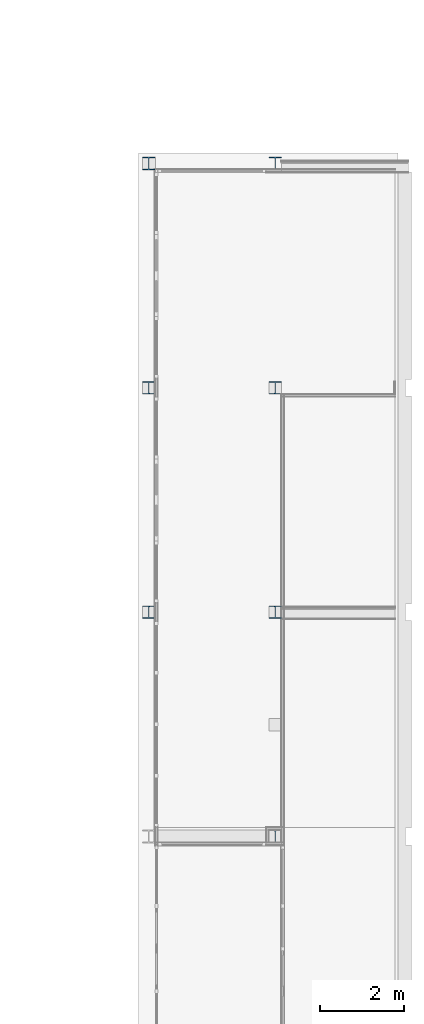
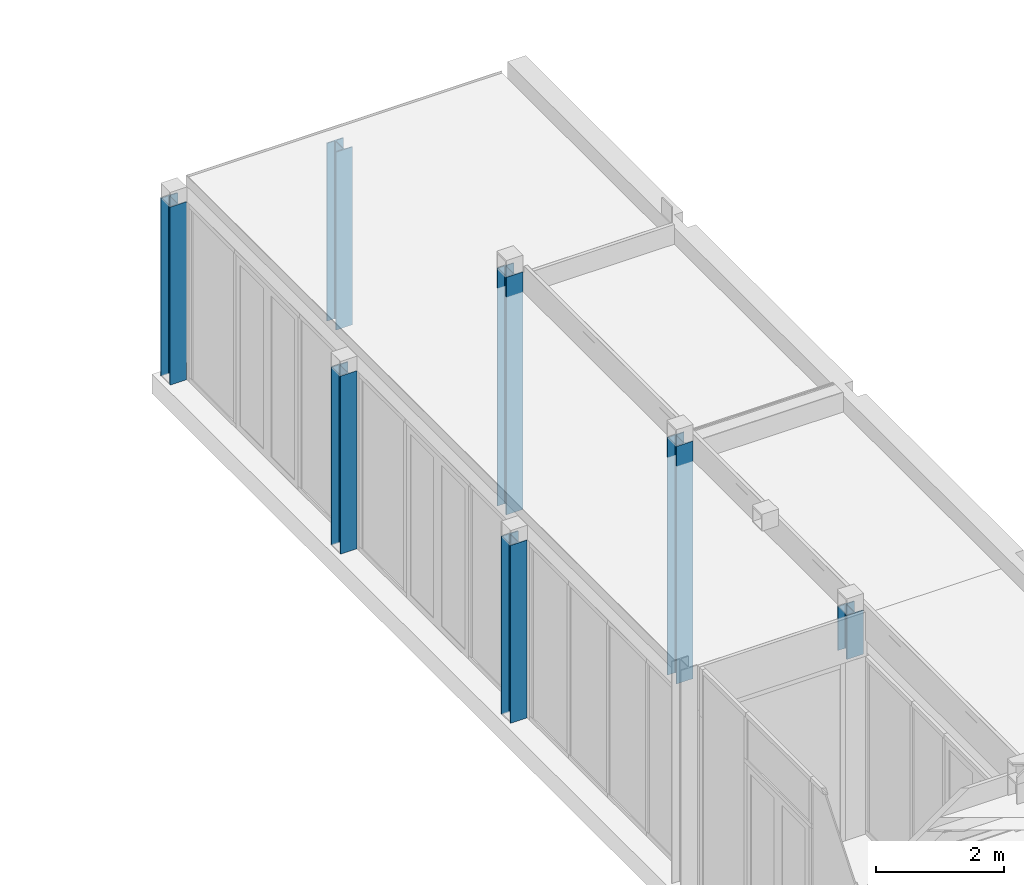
# One storey, part 18 of 99: 7 columns.
"""IFC2X3 building model written with IfcOpenShell, lengths in millimetres."""

from ifc_helpers import new_model, entity, si_unit, converted_unit, derived_unit, money_unit, direction, frame, origin_with_axes, place, context, subcontext, project, spatial, faceted_brep, material, type_object, element, save


model = new_model("IFC2X3")

# Units and contexts
model_context = context("Model", 3, precision=0.01, world=origin_with_axes(), true_north=direction((0.0, 1.0)))
body_context = subcontext(model_context, "Body", "Model", "MODEL_VIEW")
ifc_project = project(units=[si_unit("LENGTHUNIT", "METRE", prefix="MILLI"), si_unit("AREAUNIT", "SQUARE_METRE"), si_unit("VOLUMEUNIT", "CUBIC_METRE"), converted_unit("PLANEANGLEUNIT", "DEGREE", entity("IfcPlaneAngleMeasure", 0.0174532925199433), si_unit("PLANEANGLEUNIT", "RADIAN"), dimensions=[0, 0, 0, 0, 0, 0, 0]), money_unit("EUR"), converted_unit("TIMEUNIT", "Year", entity("IfcTimeMeasure", 31557600.0), si_unit("TIMEUNIT", "SECOND"), dimensions=[0, 0, 1, 0, 0, 0, 0]), si_unit("MASSUNIT", "GRAM", prefix="KILO"), si_unit("THERMODYNAMICTEMPERATUREUNIT", "DEGREE_CELSIUS"), si_unit("LUMINOUSINTENSITYUNIT", "LUMEN"), si_unit("ENERGYUNIT", "JOULE", prefix="MEGA"), derived_unit("THERMALCONDUCTANCEUNIT", [(si_unit("POWERUNIT", "WATT"), 1), (si_unit("LENGTHUNIT", "METRE"), -1), (si_unit("THERMODYNAMICTEMPERATUREUNIT", "KELVIN"), -1)]), derived_unit("SPECIFICHEATCAPACITYUNIT", [(si_unit("ENERGYUNIT", "JOULE"), 1), (si_unit("MASSUNIT", "GRAM", prefix="KILO"), -1), (si_unit("THERMODYNAMICTEMPERATUREUNIT", "KELVIN"), -1)]), derived_unit("MASSDENSITYUNIT", [(si_unit("MASSUNIT", "GRAM", prefix="KILO"), 1), (si_unit("VOLUMEUNIT", "CUBIC_METRE"), -1)])], contexts=[model_context])

# Site, building, storey
site_placement = place(None, origin_with_axes())
site = spatial("IfcSite", under=ifc_project, at=site_placement, Name="Site", CompositionType="ELEMENT")
building_placement = place(site_placement, origin_with_axes())
building = spatial("IfcBuilding", under=site, at=building_placement, Name="Naam gebouw", CompositionType="ELEMENT")
storey_placement = place(building_placement, frame((0.0, 0.0, 7650.0), z_axis=(0.0, 0.0, 1.0), x_axis=(1.0, 0.0, 0.0)))
storey = spatial("IfcBuildingStorey", under=building, at=storey_placement, Name="2e verdieping N", CompositionType="ELEMENT", Elevation=7650.0)

# Columns
ifc_material = material(Name="staal geanodiseerd RAL 7024")
column_type_1 = type_object("IfcColumnType", Name="NLRS_28_SCO_staal - kolom - HEB:HE300B", PredefinedType="COLUMN")
column_1_placement = place(storey_placement, frame((14291.00000005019, 49275.9124263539, -3500.0), z_axis=(0.0, 0.0, 1.0), x_axis=(1.0, 0.0, 0.0)))
element("IfcColumn", 1, at=column_1_placement, inside=storey, type_object=column_type_1, material=ifc_material, Name="NLRS_28_SCO_staal - kolom - HEB:HE300B", ObjectType="COLUMN", context=body_context, shape_type="Brep", body=[
    faceted_brep([(-150.0000000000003, 149.9999999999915, 3400.000000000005), (-150.0000000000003, 149.9999999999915, 0.0), (-150.0000000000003, 130.9999999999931, 0.0), (-150.0000000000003, 130.9999999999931, 3400.000000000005), (150.0000000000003, 149.9999999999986, 3400.000000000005), (150.0000000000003, 149.9999999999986, 0.0), (150.0000000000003, 131.0000000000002, 0.0), (32.49999999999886, 131.0000000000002, 0.0), (19.00000000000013, 127.3826859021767, 0.0), (9.117314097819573, 117.4999999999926, 0.0), (5.499999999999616, 103.9999999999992, 0.0), (5.499999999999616, -103.9999999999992, 0.0), (9.117314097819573, -117.5000000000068, 0.0), (19.00000000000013, -127.3826859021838, 0.0), (32.50000000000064, -131.0000000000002, 0.0), (150.0000000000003, -131.0000000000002, 0.0), (150.0000000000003, -149.9999999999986, 0.0), (-150.0000000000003, -150.0000000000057, 0.0), (-150.0000000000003, -131.0000000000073, 0.0), (-32.49999999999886, -131.0000000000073, 0.0), (-19.00000000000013, -127.3826859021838, 0.0), (-9.117314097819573, -117.4999999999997, 0.0), (-5.500000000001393, -104.0000000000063, 0.0), (-5.500000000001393, 103.9999999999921, 0.0), (-9.117314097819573, 117.4999999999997, 0.0), (-19.00000000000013, 127.3826859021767, 0.0), (-32.50000000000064, 130.9999999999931, 0.0), (-32.50000000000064, 130.9999999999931, 3400.000000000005), (-19.00000000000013, 127.3826859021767, 3400.000000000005), (-9.117314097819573, 117.4999999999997, 3400.000000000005), (-5.500000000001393, 103.9999999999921, 3400.000000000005), (-5.500000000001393, -104.0000000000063, 3400.000000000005), (-9.117314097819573, -117.4999999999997, 3400.000000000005), (-19.00000000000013, -127.3826859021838, 3400.000000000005), (-32.49999999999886, -131.0000000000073, 3400.000000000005), (-150.0000000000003, -131.0000000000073, 3400.000000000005), (-150.0000000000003, -150.0000000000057, 3400.000000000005), (150.0000000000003, -149.9999999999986, 3400.000000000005), (150.0000000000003, -131.0000000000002, 3400.000000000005), (32.50000000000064, -131.0000000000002, 3400.000000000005), (19.00000000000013, -127.3826859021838, 3400.000000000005), (9.117314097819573, -117.5000000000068, 3400.000000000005), (5.499999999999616, -103.9999999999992, 3400.000000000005), (5.499999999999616, 103.9999999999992, 3400.000000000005), (9.117314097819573, 117.4999999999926, 3400.000000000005), (19.00000000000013, 127.3826859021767, 3400.000000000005), (32.49999999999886, 131.0000000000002, 3400.000000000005), (150.0000000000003, 131.0000000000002, 3400.000000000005)], [[[0, 1, 2, 3]], [[4, 5, 1, 0]], [[2, 1, 5, 6, 7, 8, 9, 10, 11, 12, 13, 14, 15, 16, 17, 18, 19, 20, 21, 22, 23, 24, 25, 26]], [[3, 2, 26, 27]], [[4, 0, 3, 27, 28, 29, 30, 31, 32, 33, 34, 35, 36, 37, 38, 39, 40, 41, 42, 43, 44, 45, 46, 47]], [[47, 6, 5, 4]], [[46, 7, 6, 47]], [[45, 8, 7, 46]], [[44, 9, 8, 45]], [[43, 10, 9, 44]], [[42, 11, 10, 43]], [[41, 12, 11, 42]], [[40, 13, 12, 41]], [[39, 14, 13, 40]], [[38, 15, 14, 39]], [[37, 16, 15, 38]], [[36, 17, 16, 37]], [[35, 18, 17, 36]], [[34, 19, 18, 35]], [[33, 20, 19, 34]], [[32, 21, 20, 33]], [[31, 22, 21, 32]], [[30, 23, 22, 31]], [[29, 24, 23, 30]], [[28, 25, 24, 29]], [[27, 26, 25, 28]]]),
])
column_2_placement = place(storey_placement, frame((14291.00000005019, 38615.9124263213, -3500.0), z_axis=(0.0, 0.0, 1.0), x_axis=(1.0, 0.0, 0.0)))
element("IfcColumn", 2, at=column_2_placement, inside=storey, type_object=column_type_1, material=ifc_material, Name="NLRS_28_SCO_staal - kolom - HEB:HE300B", ObjectType="COLUMN", context=body_context, shape_type="Brep", body=[
    faceted_brep([(-150.0000000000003, 149.9999999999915, 3400.000000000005), (-150.0000000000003, 149.9999999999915, 0.0), (-150.0000000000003, 130.9999999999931, 0.0), (-150.0000000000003, 130.9999999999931, 3400.000000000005), (150.0000000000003, 149.9999999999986, 3400.000000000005), (150.0000000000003, 149.9999999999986, 0.0), (150.0000000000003, 131.0000000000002, 0.0), (32.49999999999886, 131.0000000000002, 0.0), (19.00000000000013, 127.3826859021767, 0.0), (9.117314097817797, 117.4999999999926, 0.0), (5.499999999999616, 103.9999999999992, 0.0), (5.499999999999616, -103.9999999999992, 0.0), (9.117314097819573, -117.5000000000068, 0.0), (18.99999999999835, -127.3826859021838, 0.0), (32.49999999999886, -131.0000000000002, 0.0), (149.9999999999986, -131.0000000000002, 0.0), (150.0000000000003, -149.9999999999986, 0.0), (-150.0000000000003, -150.0000000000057, 0.0), (-150.0000000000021, -131.0000000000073, 0.0), (-32.50000000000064, -131.0000000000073, 0.0), (-19.0000000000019, -127.3826859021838, 0.0), (-9.117314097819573, -117.4999999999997, 0.0), (-5.500000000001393, -104.0000000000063, 0.0), (-5.500000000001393, 103.9999999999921, 0.0), (-9.11731409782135, 117.4999999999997, 0.0), (-19.00000000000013, 127.3826859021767, 0.0), (-32.50000000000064, 130.9999999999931, 0.0), (-32.50000000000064, 130.9999999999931, 3400.000000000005), (-19.00000000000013, 127.3826859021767, 3400.000000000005), (-9.11731409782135, 117.4999999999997, 3400.000000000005), (-5.500000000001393, 103.9999999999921, 3400.000000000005), (-5.500000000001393, -104.0000000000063, 3400.000000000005), (-9.117314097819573, -117.4999999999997, 3400.000000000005), (-19.0000000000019, -127.3826859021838, 3400.000000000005), (-32.50000000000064, -131.0000000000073, 3400.000000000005), (-150.0000000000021, -131.0000000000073, 3400.000000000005), (-150.0000000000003, -150.0000000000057, 3400.000000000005), (150.0000000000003, -149.9999999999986, 3400.000000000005), (149.9999999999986, -131.0000000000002, 3400.000000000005), (32.49999999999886, -131.0000000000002, 3400.000000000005), (18.99999999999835, -127.3826859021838, 3400.000000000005), (9.117314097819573, -117.5000000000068, 3400.000000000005), (5.499999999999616, -103.9999999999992, 3400.000000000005), (5.499999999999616, 103.9999999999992, 3400.000000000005), (9.117314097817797, 117.4999999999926, 3400.000000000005), (19.00000000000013, 127.3826859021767, 3400.000000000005), (32.49999999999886, 131.0000000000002, 3400.000000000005), (150.0000000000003, 131.0000000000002, 3400.000000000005)], [[[0, 1, 2, 3]], [[4, 5, 1, 0]], [[2, 1, 5, 6, 7, 8, 9, 10, 11, 12, 13, 14, 15, 16, 17, 18, 19, 20, 21, 22, 23, 24, 25, 26]], [[3, 2, 26, 27]], [[4, 0, 3, 27, 28, 29, 30, 31, 32, 33, 34, 35, 36, 37, 38, 39, 40, 41, 42, 43, 44, 45, 46, 47]], [[47, 6, 5, 4]], [[46, 7, 6, 47]], [[45, 8, 7, 46]], [[44, 9, 8, 45]], [[43, 10, 9, 44]], [[42, 11, 10, 43]], [[41, 12, 11, 42]], [[40, 13, 12, 41]], [[39, 14, 13, 40]], [[38, 15, 14, 39]], [[37, 16, 15, 38]], [[36, 17, 16, 37]], [[35, 18, 17, 36]], [[34, 19, 18, 35]], [[33, 20, 19, 34]], [[32, 21, 20, 33]], [[31, 22, 21, 32]], [[30, 23, 22, 31]], [[29, 24, 23, 30]], [[28, 25, 24, 29]], [[27, 26, 25, 28]]]),
])
column_3_placement = place(storey_placement, frame((14291.00000005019, 43945.9124263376, -3500.0), z_axis=(0.0, 0.0, 1.0), x_axis=(1.0, 0.0, 0.0)))
element("IfcColumn", 3, at=column_3_placement, inside=storey, type_object=column_type_1, material=ifc_material, Name="NLRS_28_SCO_staal - kolom - HEB:HE300B", ObjectType="COLUMN", context=body_context, shape_type="Brep", body=[
    faceted_brep([(-150.0000000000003, 149.9999999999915, 3400.000000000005), (-150.0000000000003, 149.9999999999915, 0.0), (-150.0000000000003, 130.9999999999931, 0.0), (-150.0000000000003, 130.9999999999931, 3400.000000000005), (150.0000000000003, 149.9999999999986, 3400.000000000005), (150.0000000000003, 149.9999999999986, 0.0), (150.0000000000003, 131.0000000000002, 0.0), (32.49999999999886, 131.0000000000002, 0.0), (19.00000000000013, 127.3826859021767, 0.0), (9.117314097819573, 117.4999999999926, 0.0), (5.499999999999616, 103.9999999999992, 0.0), (5.499999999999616, -103.9999999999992, 0.0), (9.117314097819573, -117.5000000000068, 0.0), (18.99999999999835, -127.3826859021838, 0.0), (32.49999999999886, -131.0000000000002, 0.0), (149.9999999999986, -131.0000000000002, 0.0), (150.0000000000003, -149.9999999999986, 0.0), (-150.0000000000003, -150.0000000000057, 0.0), (-150.0000000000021, -131.0000000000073, 0.0), (-32.50000000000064, -131.0000000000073, 0.0), (-19.0000000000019, -127.3826859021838, 0.0), (-9.117314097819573, -117.4999999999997, 0.0), (-5.500000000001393, -104.0000000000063, 0.0), (-5.500000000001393, 103.9999999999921, 0.0), (-9.117314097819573, 117.4999999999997, 0.0), (-19.00000000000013, 127.3826859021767, 0.0), (-32.50000000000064, 130.9999999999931, 0.0), (-32.50000000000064, 130.9999999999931, 3400.000000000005), (-19.00000000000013, 127.3826859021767, 3400.000000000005), (-9.117314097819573, 117.4999999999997, 3400.000000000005), (-5.500000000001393, 103.9999999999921, 3400.000000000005), (-5.500000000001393, -104.0000000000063, 3400.000000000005), (-9.117314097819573, -117.4999999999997, 3400.000000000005), (-19.0000000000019, -127.3826859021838, 3400.000000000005), (-32.50000000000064, -131.0000000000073, 3400.000000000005), (-150.0000000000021, -131.0000000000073, 3400.000000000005), (-150.0000000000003, -150.0000000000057, 3400.000000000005), (150.0000000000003, -149.9999999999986, 3400.000000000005), (149.9999999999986, -131.0000000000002, 3400.000000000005), (32.49999999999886, -131.0000000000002, 3400.000000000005), (18.99999999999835, -127.3826859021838, 3400.000000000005), (9.117314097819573, -117.5000000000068, 3400.000000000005), (5.499999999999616, -103.9999999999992, 3400.000000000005), (5.499999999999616, 103.9999999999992, 3400.000000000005), (9.117314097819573, 117.4999999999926, 3400.000000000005), (19.00000000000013, 127.3826859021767, 3400.000000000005), (32.49999999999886, 131.0000000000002, 3400.000000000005), (150.0000000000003, 131.0000000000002, 3400.000000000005)], [[[0, 1, 2, 3]], [[4, 5, 1, 0]], [[2, 1, 5, 6, 7, 8, 9, 10, 11, 12, 13, 14, 15, 16, 17, 18, 19, 20, 21, 22, 23, 24, 25, 26]], [[3, 2, 26, 27]], [[4, 0, 3, 27, 28, 29, 30, 31, 32, 33, 34, 35, 36, 37, 38, 39, 40, 41, 42, 43, 44, 45, 46, 47]], [[47, 6, 5, 4]], [[46, 7, 6, 47]], [[45, 8, 7, 46]], [[44, 9, 8, 45]], [[43, 10, 9, 44]], [[42, 11, 10, 43]], [[41, 12, 11, 42]], [[40, 13, 12, 41]], [[39, 14, 13, 40]], [[38, 15, 14, 39]], [[37, 16, 15, 38]], [[36, 17, 16, 37]], [[35, 18, 17, 36]], [[34, 19, 18, 35]], [[33, 20, 19, 34]], [[32, 21, 20, 33]], [[31, 22, 21, 32]], [[30, 23, 22, 31]], [[29, 24, 23, 30]], [[28, 25, 24, 29]], [[27, 26, 25, 28]]]),
])
column_type_2 = type_object("IfcColumnType", Name="NLRS_28_SCO_staal - kolom - HEB:HE300B", PredefinedType="COLUMN")
column_4_placement = place(storey_placement, frame((17291.00000005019, 33285.912426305, -99.99999999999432), z_axis=(0.0, 0.0, 1.0), x_axis=(0.0, -1.0, 0.0)))
element("IfcColumn", 4, at=column_4_placement, inside=storey, type_object=column_type_2, material=ifc_material, Name="NLRS_28_SCO_staal - kolom - HEB:HE300B", ObjectType="COLUMN", context=body_context, shape_type="Brep", body=[
    faceted_brep([(-149.9999999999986, -150.0000000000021, 839.9999999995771), (-149.9999999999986, -150.0000000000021, 0.0), (-131.0000000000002, -149.9999999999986, 0.0), (-131.0000000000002, -149.9999999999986, 839.9999999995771), (-149.9999999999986, 149.9999999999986, 839.9999999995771), (-149.9999999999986, 149.9999999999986, 0.0), (-131.0000000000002, 149.9999999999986, 0.0), (-131.0000000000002, 32.49999999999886, 0.0), (-127.3826859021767, 18.99999999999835, 0.0), (-117.4999999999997, 9.11731409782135, 0.0), (-103.9999999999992, 5.500000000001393, 0.0), (103.9999999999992, 5.49999999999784, 0.0), (117.4999999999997, 9.11731409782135, 0.0), (127.3826859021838, 18.99999999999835, 0.0), (131.0000000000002, 32.49999999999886, 0.0), (131.0000000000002, 149.9999999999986, 0.0), (149.9999999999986, 149.9999999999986, 0.0), (149.9999999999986, -150.0000000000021, 0.0), (131.0000000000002, -149.9999999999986, 0.0), (131.0000000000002, -32.49999999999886, 0.0), (127.3826859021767, -19.0000000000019, 0.0), (117.4999999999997, -9.11731409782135, 0.0), (103.9999999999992, -5.500000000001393, 0.0), (-103.9999999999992, -5.49999999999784, 0.0), (-117.4999999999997, -9.11731409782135, 0.0), (-127.3826859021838, -19.0000000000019, 0.0), (-131.0000000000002, -32.49999999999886, 0.0), (-131.0000000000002, -32.49999999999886, 839.9999999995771), (-127.3826859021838, -19.0000000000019, 839.9999999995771), (-117.4999999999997, -9.11731409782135, 839.9999999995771), (-103.9999999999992, -5.49999999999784, 839.9999999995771), (103.9999999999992, -5.500000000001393, 839.9999999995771), (117.4999999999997, -9.11731409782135, 839.9999999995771), (127.3826859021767, -19.0000000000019, 839.9999999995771), (131.0000000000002, -32.49999999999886, 839.9999999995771), (131.0000000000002, -149.9999999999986, 839.9999999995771), (149.9999999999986, -150.0000000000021, 839.9999999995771), (149.9999999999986, 149.9999999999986, 839.9999999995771), (131.0000000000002, 149.9999999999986, 839.9999999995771), (131.0000000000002, 32.49999999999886, 839.9999999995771), (127.3826859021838, 18.99999999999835, 839.9999999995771), (117.4999999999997, 9.11731409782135, 839.9999999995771), (103.9999999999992, 5.49999999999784, 839.9999999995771), (-103.9999999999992, 5.500000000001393, 839.9999999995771), (-117.4999999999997, 9.11731409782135, 839.9999999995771), (-127.3826859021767, 18.99999999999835, 839.9999999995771), (-131.0000000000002, 32.49999999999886, 839.9999999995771), (-131.0000000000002, 149.9999999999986, 839.9999999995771)], [[[0, 1, 2, 3]], [[4, 5, 1, 0]], [[2, 1, 5, 6, 7, 8, 9, 10, 11, 12, 13, 14, 15, 16, 17, 18, 19, 20, 21, 22, 23, 24, 25, 26]], [[3, 2, 26, 27]], [[4, 0, 3, 27, 28, 29, 30, 31, 32, 33, 34, 35, 36, 37, 38, 39, 40, 41, 42, 43, 44, 45, 46, 47]], [[47, 6, 5, 4]], [[46, 7, 6, 47]], [[45, 8, 7, 46]], [[44, 9, 8, 45]], [[43, 10, 9, 44]], [[42, 11, 10, 43]], [[41, 12, 11, 42]], [[40, 13, 12, 41]], [[39, 14, 13, 40]], [[38, 15, 14, 39]], [[37, 16, 15, 38]], [[36, 17, 16, 37]], [[35, 18, 17, 36]], [[34, 19, 18, 35]], [[33, 20, 19, 34]], [[32, 21, 20, 33]], [[31, 22, 21, 32]], [[30, 23, 22, 31]], [[29, 24, 23, 30]], [[28, 25, 24, 29]], [[27, 26, 25, 28]]]),
])
column_type_3 = type_object("IfcColumnType", Name="NLRS_28_SCO_staal - kolom - HEB:HE300B", PredefinedType="COLUMN")
column_5_placement = place(storey_placement, frame((17291.00000002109, 38615.9124263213, -3800.000000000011), z_axis=(0.0, 0.0, 1.0), x_axis=(0.0, -1.0, 0.0)))
element("IfcColumn", 5, at=column_5_placement, inside=storey, type_object=column_type_3, material=ifc_material, Name="NLRS_28_SCO_staal - kolom - HEB:HE300B", ObjectType="COLUMN", context=body_context, shape_type="Brep", body=[
    faceted_brep([(-149.9999999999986, -150.0000000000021, 4539.999999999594), (-149.9999999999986, -150.0000000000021, 0.0), (-131.0000000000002, -149.9999999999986, 0.0), (-131.0000000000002, -149.9999999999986, 4539.999999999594), (-149.9999999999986, 149.9999999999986, 4539.999999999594), (-149.9999999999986, 149.9999999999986, 0.0), (-131.0000000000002, 149.9999999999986, 0.0), (-131.0000000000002, 32.49999999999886, 0.0), (-127.3826859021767, 18.99999999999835, 0.0), (-117.4999999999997, 9.11731409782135, 0.0), (-103.9999999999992, 5.500000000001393, 0.0), (103.9999999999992, 5.49999999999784, 0.0), (117.4999999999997, 9.11731409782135, 0.0), (127.3826859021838, 18.99999999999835, 0.0), (131.0000000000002, 32.49999999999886, 0.0), (131.0000000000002, 149.9999999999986, 0.0), (149.9999999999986, 149.9999999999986, 0.0), (149.9999999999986, -150.0000000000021, 0.0), (131.0000000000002, -149.9999999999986, 0.0), (131.0000000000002, -32.49999999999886, 0.0), (127.3826859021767, -19.0000000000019, 0.0), (117.4999999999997, -9.11731409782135, 0.0), (103.9999999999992, -5.500000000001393, 0.0), (-103.9999999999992, -5.49999999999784, 0.0), (-117.4999999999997, -9.11731409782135, 0.0), (-127.3826859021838, -19.0000000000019, 0.0), (-131.0000000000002, -32.49999999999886, 0.0), (-131.0000000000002, -32.49999999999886, 4539.999999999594), (-127.3826859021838, -19.0000000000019, 4539.999999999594), (-117.4999999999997, -9.11731409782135, 4539.999999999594), (-103.9999999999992, -5.49999999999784, 4539.999999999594), (103.9999999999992, -5.500000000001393, 4539.999999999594), (117.4999999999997, -9.11731409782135, 4539.999999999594), (127.3826859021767, -19.0000000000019, 4539.999999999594), (131.0000000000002, -32.49999999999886, 4539.999999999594), (131.0000000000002, -149.9999999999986, 4539.999999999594), (149.9999999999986, -150.0000000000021, 4539.999999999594), (149.9999999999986, 149.9999999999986, 4539.999999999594), (131.0000000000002, 149.9999999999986, 4539.999999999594), (131.0000000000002, 32.49999999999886, 4539.999999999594), (127.3826859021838, 18.99999999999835, 4539.999999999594), (117.4999999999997, 9.11731409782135, 4539.999999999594), (103.9999999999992, 5.49999999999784, 4539.999999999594), (-103.9999999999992, 5.500000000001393, 4539.999999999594), (-117.4999999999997, 9.11731409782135, 4539.999999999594), (-127.3826859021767, 18.99999999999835, 4539.999999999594), (-131.0000000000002, 32.49999999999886, 4539.999999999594), (-131.0000000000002, 149.9999999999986, 4539.999999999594)], [[[0, 1, 2, 3]], [[4, 5, 1, 0]], [[2, 1, 5, 6, 7, 8, 9, 10, 11, 12, 13, 14, 15, 16, 17, 18, 19, 20, 21, 22, 23, 24, 25, 26]], [[3, 2, 26, 27]], [[4, 0, 3, 27, 28, 29, 30, 31, 32, 33, 34, 35, 36, 37, 38, 39, 40, 41, 42, 43, 44, 45, 46, 47]], [[47, 6, 5, 4]], [[46, 7, 6, 47]], [[45, 8, 7, 46]], [[44, 9, 8, 45]], [[43, 10, 9, 44]], [[42, 11, 10, 43]], [[41, 12, 11, 42]], [[40, 13, 12, 41]], [[39, 14, 13, 40]], [[38, 15, 14, 39]], [[37, 16, 15, 38]], [[36, 17, 16, 37]], [[35, 18, 17, 36]], [[34, 19, 18, 35]], [[33, 20, 19, 34]], [[32, 21, 20, 33]], [[31, 22, 21, 32]], [[30, 23, 22, 31]], [[29, 24, 23, 30]], [[28, 25, 24, 29]], [[27, 26, 25, 28]]]),
])
column_6_placement = place(storey_placement, frame((17291.00000002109, 43945.9124263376, -3800.000000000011), z_axis=(0.0, 0.0, 1.0), x_axis=(0.0, -1.0, 0.0)))
element("IfcColumn", 6, at=column_6_placement, inside=storey, type_object=column_type_3, material=ifc_material, Name="NLRS_28_SCO_staal - kolom - HEB:HE300B", ObjectType="COLUMN", context=body_context, shape_type="Brep", body=[
    faceted_brep([(-149.9999999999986, -150.0000000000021, 4539.999999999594), (-149.9999999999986, -150.0000000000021, 0.0), (-131.0000000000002, -149.9999999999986, 0.0), (-131.0000000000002, -149.9999999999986, 4539.999999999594), (-149.9999999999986, 149.9999999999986, 4539.999999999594), (-149.9999999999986, 149.9999999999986, 0.0), (-131.0000000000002, 149.9999999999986, 0.0), (-131.0000000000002, 32.49999999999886, 0.0), (-127.3826859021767, 18.99999999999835, 0.0), (-117.4999999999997, 9.11731409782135, 0.0), (-103.9999999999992, 5.49999999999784, 0.0), (103.9999999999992, 5.49999999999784, 0.0), (117.4999999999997, 9.11731409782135, 0.0), (127.3826859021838, 18.99999999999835, 0.0), (131.0000000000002, 32.49999999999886, 0.0), (131.0000000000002, 149.9999999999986, 0.0), (149.9999999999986, 149.9999999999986, 0.0), (149.9999999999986, -150.0000000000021, 0.0), (131.0000000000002, -149.9999999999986, 0.0), (131.0000000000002, -32.49999999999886, 0.0), (127.3826859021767, -19.0000000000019, 0.0), (117.4999999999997, -9.11731409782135, 0.0), (103.9999999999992, -5.500000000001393, 0.0), (-103.9999999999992, -5.500000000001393, 0.0), (-117.4999999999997, -9.11731409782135, 0.0), (-127.3826859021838, -19.0000000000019, 0.0), (-131.0000000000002, -32.49999999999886, 0.0), (-131.0000000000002, -32.49999999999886, 4539.999999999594), (-127.3826859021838, -19.0000000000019, 4539.999999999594), (-117.4999999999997, -9.11731409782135, 4539.999999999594), (-103.9999999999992, -5.500000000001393, 4539.999999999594), (103.9999999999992, -5.500000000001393, 4539.999999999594), (117.4999999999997, -9.11731409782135, 4539.999999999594), (127.3826859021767, -19.0000000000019, 4539.999999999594), (131.0000000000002, -32.49999999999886, 4539.999999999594), (131.0000000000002, -149.9999999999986, 4539.999999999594), (149.9999999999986, -150.0000000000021, 4539.999999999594), (149.9999999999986, 149.9999999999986, 4539.999999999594), (131.0000000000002, 149.9999999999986, 4539.999999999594), (131.0000000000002, 32.49999999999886, 4539.999999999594), (127.3826859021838, 18.99999999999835, 4539.999999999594), (117.4999999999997, 9.11731409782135, 4539.999999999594), (103.9999999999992, 5.49999999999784, 4539.999999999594), (-103.9999999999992, 5.49999999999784, 4539.999999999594), (-117.4999999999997, 9.11731409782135, 4539.999999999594), (-127.3826859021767, 18.99999999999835, 4539.999999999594), (-131.0000000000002, 32.49999999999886, 4539.999999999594), (-131.0000000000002, 149.9999999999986, 4539.999999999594)], [[[0, 1, 2, 3]], [[4, 5, 1, 0]], [[2, 1, 5, 6, 7, 8, 9, 10, 11, 12, 13, 14, 15, 16, 17, 18, 19, 20, 21, 22, 23, 24, 25, 26]], [[3, 2, 26, 27]], [[4, 0, 3, 27, 28, 29, 30, 31, 32, 33, 34, 35, 36, 37, 38, 39, 40, 41, 42, 43, 44, 45, 46, 47]], [[47, 6, 5, 4]], [[46, 7, 6, 47]], [[45, 8, 7, 46]], [[44, 9, 8, 45]], [[43, 10, 9, 44]], [[42, 11, 10, 43]], [[41, 12, 11, 42]], [[40, 13, 12, 41]], [[39, 14, 13, 40]], [[38, 15, 14, 39]], [[37, 16, 15, 38]], [[36, 17, 16, 37]], [[35, 18, 17, 36]], [[34, 19, 18, 35]], [[33, 20, 19, 34]], [[32, 21, 20, 33]], [[31, 22, 21, 32]], [[30, 23, 22, 31]], [[29, 24, 23, 30]], [[28, 25, 24, 29]], [[27, 26, 25, 28]]]),
])
column_type_4 = type_object("IfcColumnType", Name="NLRS_28_SCO_staal - kolom - HEB:HE300B", PredefinedType="COLUMN")
column_7_placement = place(storey_placement, frame((17291.00000005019, 49275.91242629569, -3500.0), z_axis=(0.0, 0.0, 1.0), x_axis=(1.0, 0.0, 0.0)))
element("IfcColumn", 7, at=column_7_placement, inside=storey, type_object=column_type_4, material=ifc_material, Name="NLRS_28_SCO_staal - kolom - HEB:HE300B", ObjectType="COLUMN", context=body_context, shape_type="Brep", body=[
    faceted_brep([(-149.9999999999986, 149.9999999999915, 3399.999999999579), (-149.9999999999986, 149.9999999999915, 0.0), (-149.9999999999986, 130.9999999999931, 0.0), (-149.9999999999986, 130.9999999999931, 3399.999999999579), (150.0000000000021, 149.9999999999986, 3399.999999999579), (150.0000000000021, 149.9999999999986, 0.0), (149.9999999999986, 131.0000000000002, 0.0), (32.49999999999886, 131.0000000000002, 0.0), (19.0000000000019, 127.3826859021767, 0.0), (9.11731409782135, 117.4999999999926, 0.0), (5.500000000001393, 103.9999999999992, 0.0), (5.500000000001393, -103.9999999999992, 0.0), (9.11731409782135, -117.5000000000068, 0.0), (19.0000000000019, -127.3826859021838, 0.0), (32.49999999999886, -131.0000000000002, 0.0), (149.9999999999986, -131.0000000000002, 0.0), (150.0000000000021, -149.9999999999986, 0.0), (-149.9999999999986, -150.0000000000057, 0.0), (-149.9999999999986, -131.0000000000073, 0.0), (-32.49999999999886, -131.0000000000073, 0.0), (-18.99999999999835, -127.3826859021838, 0.0), (-9.11731409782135, -117.4999999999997, 0.0), (-5.49999999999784, -104.0000000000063, 0.0), (-5.49999999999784, 103.9999999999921, 0.0), (-9.11731409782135, 117.4999999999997, 0.0), (-18.99999999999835, 127.3826859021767, 0.0), (-32.49999999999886, 130.9999999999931, 0.0), (-32.49999999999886, 130.9999999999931, 3399.999999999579), (-18.99999999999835, 127.3826859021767, 3399.999999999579), (-9.11731409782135, 117.4999999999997, 3399.999999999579), (-5.49999999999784, 103.9999999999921, 3399.999999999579), (-5.49999999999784, -104.0000000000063, 3399.999999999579), (-9.11731409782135, -117.4999999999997, 3399.999999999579), (-18.99999999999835, -127.3826859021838, 3399.999999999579), (-32.49999999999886, -131.0000000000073, 3399.999999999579), (-149.9999999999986, -131.0000000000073, 3399.999999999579), (-149.9999999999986, -150.0000000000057, 3399.999999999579), (150.0000000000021, -149.9999999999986, 3399.999999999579), (149.9999999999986, -131.0000000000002, 3399.999999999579), (32.49999999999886, -131.0000000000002, 3399.999999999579), (19.0000000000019, -127.3826859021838, 3399.999999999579), (9.11731409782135, -117.5000000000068, 3399.999999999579), (5.500000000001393, -103.9999999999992, 3399.999999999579), (5.500000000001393, 103.9999999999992, 3399.999999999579), (9.11731409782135, 117.4999999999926, 3399.999999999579), (19.0000000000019, 127.3826859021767, 3399.999999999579), (32.49999999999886, 131.0000000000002, 3399.999999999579), (149.9999999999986, 131.0000000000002, 3399.999999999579)], [[[0, 1, 2, 3]], [[4, 5, 1, 0]], [[2, 1, 5, 6, 7, 8, 9, 10, 11, 12, 13, 14, 15, 16, 17, 18, 19, 20, 21, 22, 23, 24, 25, 26]], [[3, 2, 26, 27]], [[4, 0, 3, 27, 28, 29, 30, 31, 32, 33, 34, 35, 36, 37, 38, 39, 40, 41, 42, 43, 44, 45, 46, 47]], [[47, 6, 5, 4]], [[46, 7, 6, 47]], [[45, 8, 7, 46]], [[44, 9, 8, 45]], [[43, 10, 9, 44]], [[42, 11, 10, 43]], [[41, 12, 11, 42]], [[40, 13, 12, 41]], [[39, 14, 13, 40]], [[38, 15, 14, 39]], [[37, 16, 15, 38]], [[36, 17, 16, 37]], [[35, 18, 17, 36]], [[34, 19, 18, 35]], [[33, 20, 19, 34]], [[32, 21, 20, 33]], [[31, 22, 21, 32]], [[30, 23, 22, 31]], [[29, 24, 23, 30]], [[28, 25, 24, 29]], [[27, 26, 25, 28]]]),
])

save(model, "model.ifc")
